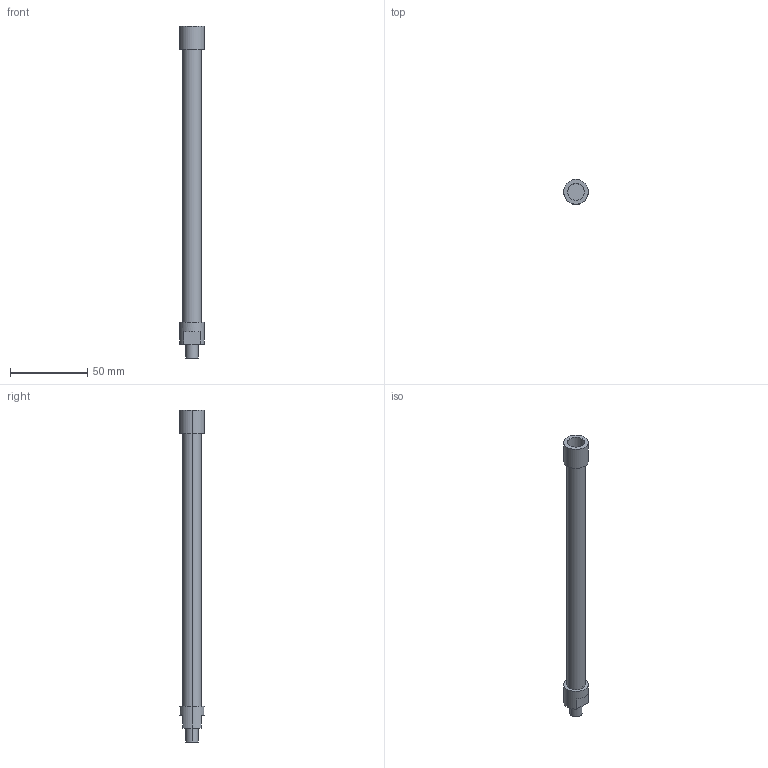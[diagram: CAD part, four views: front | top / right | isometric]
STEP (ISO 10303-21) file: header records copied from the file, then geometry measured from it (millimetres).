
FILE_DESCRIPTION(('STEP AP214'),'1');
FILE_NAME('C:/Users/Autocad/Desktop/215-60 M.stp','2014-02-10T09:09:39',(' '),(' '),'Spatial InterOp 3D',' ',' ');
FILE_SCHEMA(('automotive_design'));
Length unit declared in the file: metre
Products named in the file (2): 1; 2
Bounding box: 16 x 16 x 215 mm (x, y, z)
Volume: 7776.4 mm3; surface area: 15835.8 mm2
Topology: 1 solids, 4 shells, 26 faces, 61 edges, 45 vertices
Faces by surface type: cylinder 14, plane 12
Entity records: 1030 total; most frequent: DIRECTION 154, CARTESIAN_POINT 134, ORIENTED_EDGE 110, AXIS2_PLACEMENT_3D 65, EDGE_CURVE 61, VERTEX_POINT 45, CIRCLE 37, EDGE_LOOP 32
